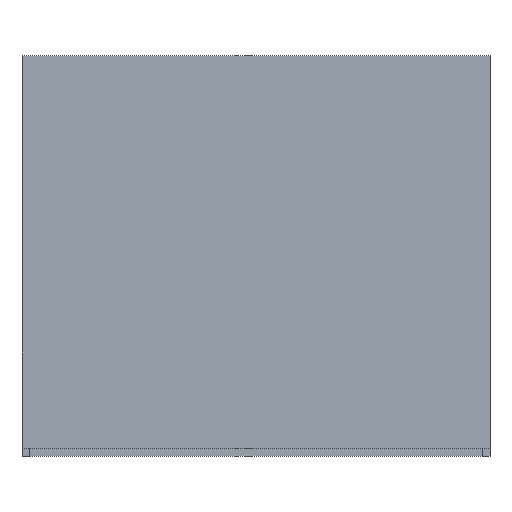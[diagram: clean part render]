
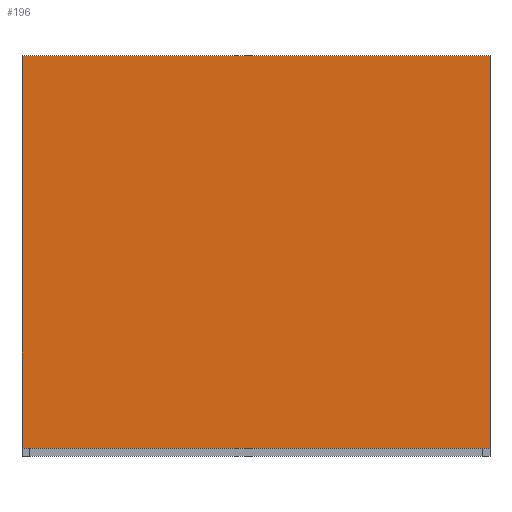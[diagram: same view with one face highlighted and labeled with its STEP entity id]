
A CAD part, top view. The second image highlights one B-rep face of the part: STEP entity #196.
In plain terms, the highlighted planar face has unit normal (0, 0, 1).
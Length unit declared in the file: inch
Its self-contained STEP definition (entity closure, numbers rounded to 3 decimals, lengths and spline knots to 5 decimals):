
#76=CARTESIAN_POINT('',(3.05,-0.05026,1.24999));
#77=VERTEX_POINT('',#76);
#84=CARTESIAN_POINT('',(-0.05,-0.05026,1.24999));
#85=VERTEX_POINT('',#84);
#86=CARTESIAN_POINT('',(-0.05,-0.05026,1.24999));
#87=DIRECTION('',(1.,0.,-0.));
#88=VECTOR('',#87,3.1);
#89=LINE('',#86,#88);
#90=EDGE_CURVE('',#85,#77,#89,.T.);
#114=CARTESIAN_POINT('',(3.05,2.54975,1.25052));
#115=VERTEX_POINT('',#114);
#122=CARTESIAN_POINT('',(3.05,-0.05026,1.24999));
#123=DIRECTION('',(0.,1.,0.));
#124=VECTOR('',#123,2.6);
#125=LINE('',#122,#124);
#126=EDGE_CURVE('',#77,#115,#125,.T.);
#146=CARTESIAN_POINT('',(-0.05,2.54975,1.25052));
#147=VERTEX_POINT('',#146);
#148=CARTESIAN_POINT('',(-0.05,-0.05026,1.24999));
#149=DIRECTION('',(0.,1.,0.));
#150=VECTOR('',#149,2.6);
#151=LINE('',#148,#150);
#152=EDGE_CURVE('',#85,#147,#151,.T.);
#175=CARTESIAN_POINT('',(-0.05,2.54975,1.25052));
#176=DIRECTION('',(1.,0.,-0.));
#177=VECTOR('',#176,3.1);
#178=LINE('',#175,#177);
#179=EDGE_CURVE('',#147,#115,#178,.T.);
#185=CARTESIAN_POINT('',(-0.05,-0.05026,1.24999));
#186=DIRECTION('',(0.,0.,1.));
#187=DIRECTION('',(1.,0.,0.));
#188=AXIS2_PLACEMENT_3D('',#185,#186,#187);
#189=PLANE('',#188);
#190=ORIENTED_EDGE('',*,*,#90,.T.);
#191=ORIENTED_EDGE('',*,*,#126,.T.);
#192=ORIENTED_EDGE('',*,*,#179,.F.);
#193=ORIENTED_EDGE('',*,*,#152,.F.);
#194=EDGE_LOOP('',(#190,#191,#192,#193));
#195=FACE_BOUND('',#194,.T.);
#196=ADVANCED_FACE('',(#195),#189,.T.);
